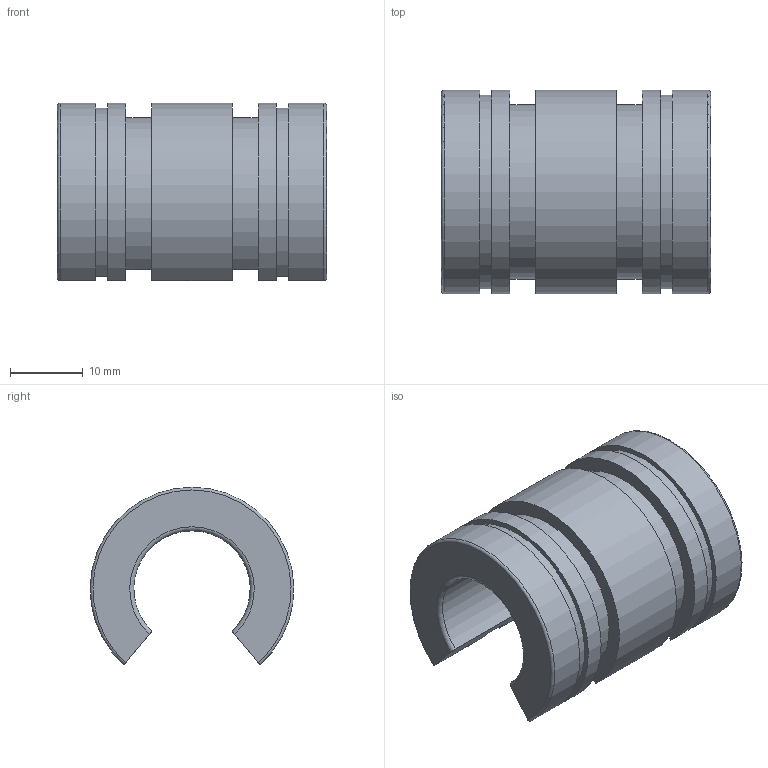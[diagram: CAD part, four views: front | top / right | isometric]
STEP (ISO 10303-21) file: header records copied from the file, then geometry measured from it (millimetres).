
FILE_DESCRIPTION(('STEP AP203'),'1');
FILE_NAME('//192.168.1.1/share/s-4 技術開発/s-4-4_CAD/s-4-4-3_見直し済み/PBC LINEAR修正済み/FJN/FJN_TOP/FJN16.step','2022-03-24T07:44:00',(' '),(' '),'Spatial InterOp 3D',' ',' ');
FILE_SCHEMA(('CONFIG_CONTROL_DESIGN'));
Length unit declared in the file: millimetre
Products named in the file (1): 1
Bounding box: 37 x 27.99 x 24.41 mm (x, y, z)
Volume: 10665.4 mm3; surface area: 5517.2 mm2
Topology: 1 solids, 1 shells, 26 faces, 72 edges, 48 vertices
Faces by surface type: plane 12, cylinder 10, torus 4
Entity records: 908 total; most frequent: CARTESIAN_POINT 187, ORIENTED_EDGE 144, DIRECTION 142, EDGE_CURVE 72, AXIS2_PLACEMENT_3D 51, VERTEX_POINT 48, LINE 40, VECTOR 40
